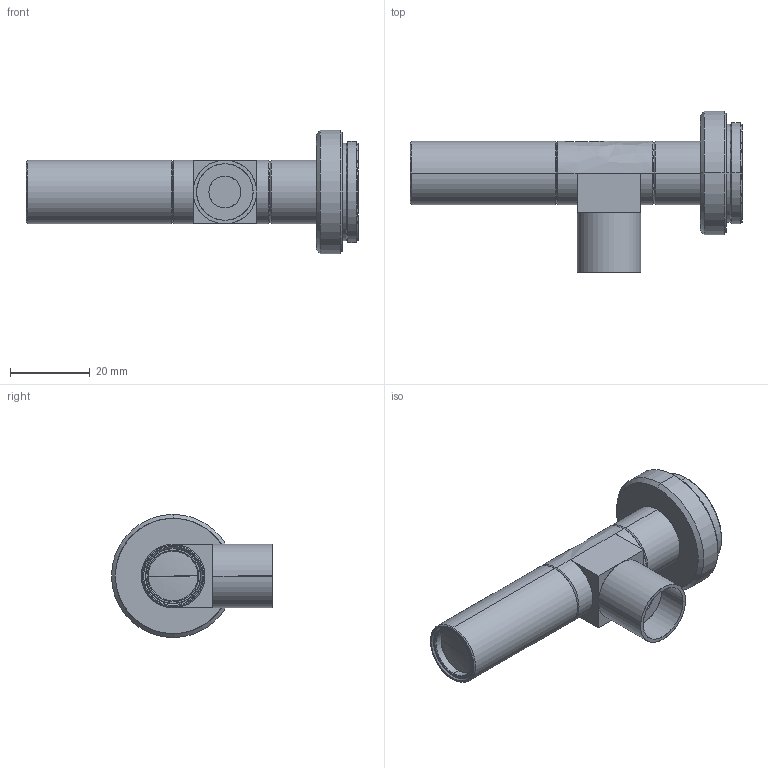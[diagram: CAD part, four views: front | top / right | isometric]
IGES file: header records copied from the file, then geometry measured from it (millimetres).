
Start section: SolidWorks IGES file using analytic representation for surfaces
Global section: file name: C:\Users\miura_vst\Desktop\3D\HP提出用過去の分確認\ok VS-TC1-110CO\VS-TC1-110CO.IGS; native system: SolidWorks 2015; preprocessor: SolidWorks 2015; author: miura_vst; date: 150828.144833; units: millimetre
Bounding box: 83.47 x 40.5 x 31 mm (x, y, z)
Surface area: 8254.5 mm2 (no closed solid volume)
Topology: 0 solids, 0 shells, 98 faces, 1276 edges, 1274 vertices
Faces by surface type: revolution 77, bspline 21
